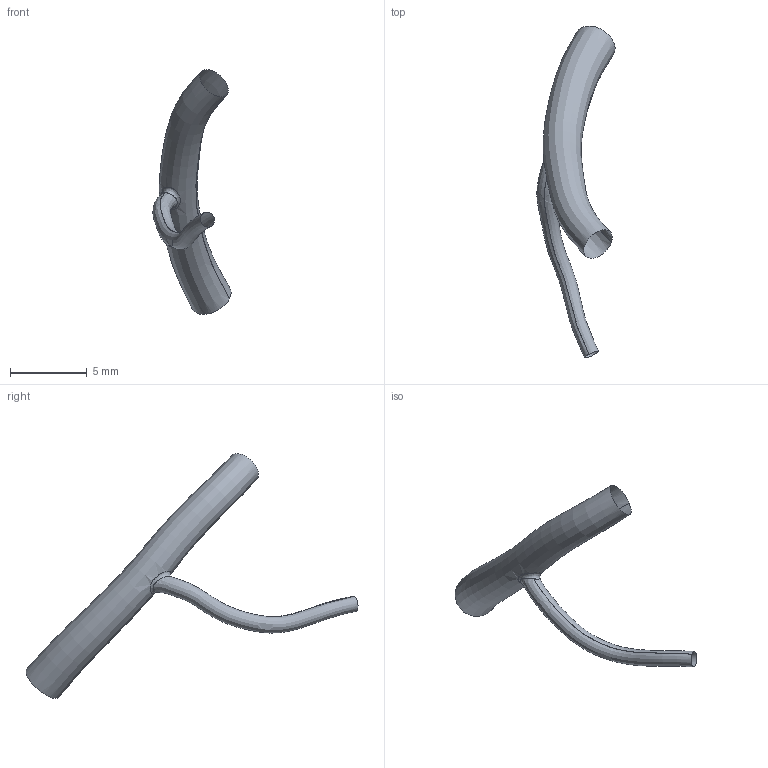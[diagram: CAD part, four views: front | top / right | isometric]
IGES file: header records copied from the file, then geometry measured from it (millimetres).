
Global section: file name: C:\Documents and Settings\Administrator\Desktop\FDA-Pig\Domestic LCA\Pig_000138\om.es.igs; native system: Rhinoceros ( May 19 2006 ); preprocessor: Trout Lake IGES 012 May 19 2006; date: 111205.184728; units: centimetre
Bounding box: 5.09 x 21.63 x 15.95 mm (x, y, z)
Surface area: 203.7 mm2 (no closed solid volume)
Topology: 0 solids, 0 shells, 3 faces, 39 edges, 36 vertices
Faces by surface type: bspline 3
